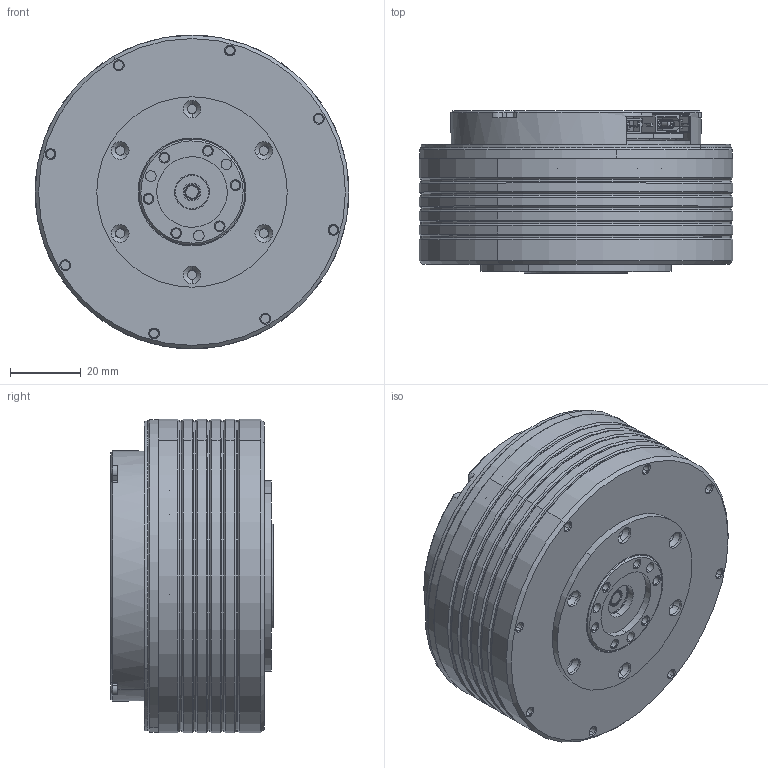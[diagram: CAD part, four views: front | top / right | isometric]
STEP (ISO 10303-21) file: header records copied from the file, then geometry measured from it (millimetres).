
FILE_DESCRIPTION (( 'STEP AP203' ), '1' );
FILE_NAME ('AK70-9 KV60.STEP', '2025-02-24T05:32:42', ( '' ), ( '' ), 'SwSTEP 2.0', 'SolidWorks 2020', '' );
FILE_SCHEMA (( 'CONFIG_CONTROL_DESIGN' ));
Length unit declared in the file: millimetre
Products named in the file (1): AK70-9 KV60
Bounding box: 89 x 46 x 89 mm (x, y, z)
Surface area: 42368.2 mm2 (no closed solid volume)
Topology: 0 solids, 121 shells, 543 faces, 1965 edges, 1538 vertices
Faces by surface type: plane 221, cylinder 166, cone 84, bspline 56, torus 16
Entity records: 23411 total; most frequent: CARTESIAN_POINT 7285, DIRECTION 3241, ORIENTED_EDGE 2774, EDGE_CURVE 1965, VERTEX_POINT 1538, VECTOR 1125, LINE 1125, AXIS2_PLACEMENT_3D 1058
